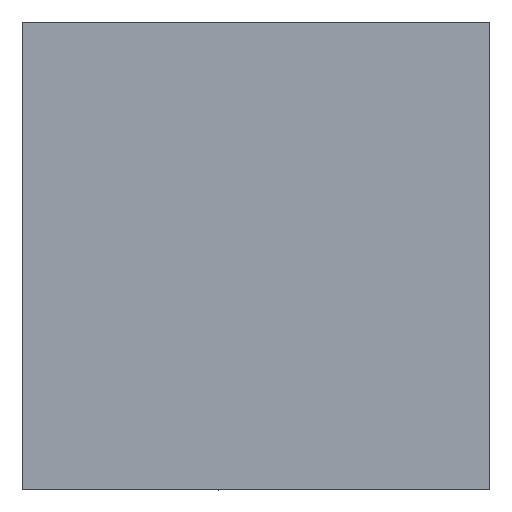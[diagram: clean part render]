
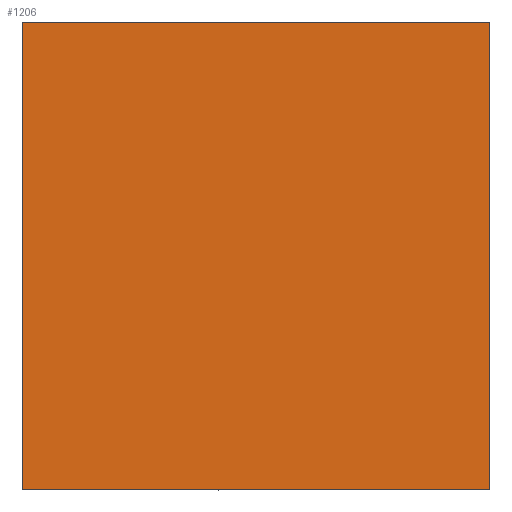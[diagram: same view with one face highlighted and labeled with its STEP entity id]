
A CAD part, front view. The second image highlights one B-rep face of the part: STEP entity #1206.
In plain terms, the highlighted planar face has unit normal (0, -1, 0).
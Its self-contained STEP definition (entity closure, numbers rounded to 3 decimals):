
#389=CARTESIAN_POINT('Vertex',(40.,0.,40.)) ;
#408=CARTESIAN_POINT('Vertex',(-40.,0.,40.)) ;
#411=CARTESIAN_POINT('Line Origine',(0.,0.,40.)) ;
#453=CARTESIAN_POINT('Vertex',(40.,0.,-40.)) ;
#461=CARTESIAN_POINT('Line Origine',(40.,0.,0.)) ;
#830=CARTESIAN_POINT('Vertex',(-40.,0.,-40.)) ;
#838=CARTESIAN_POINT('Line Origine',(0.,0.,-40.)) ;
#1034=CARTESIAN_POINT('Line Origine',(-40.,0.,0.)) ;
#1195=CARTESIAN_POINT('Axis2P3D Location',(0.,0.,-0.)) ;
#412=DIRECTION('Vector Direction',(1.,0.,0.)) ;
#462=DIRECTION('Vector Direction',(0.,0.,-1.)) ;
#839=DIRECTION('Vector Direction',(-1.,0.,0.)) ;
#1035=DIRECTION('Vector Direction',(0.,0.,1.)) ;
#1196=DIRECTION('Axis2P3D Direction',(0.,1.,-0.)) ;
#1197=DIRECTION('Axis2P3D XDirection',(0.,0.,1.)) ;
#1198=AXIS2_PLACEMENT_3D('Plane Axis2P3D',#1195,#1196,#1197) ;
#1201=ORIENTED_EDGE('',*,*,#842,.F.) ;
#1202=ORIENTED_EDGE('',*,*,#465,.F.) ;
#1203=ORIENTED_EDGE('',*,*,#415,.F.) ;
#1204=ORIENTED_EDGE('',*,*,#1038,.F.) ;
#413=VECTOR('Line Direction',#412,1.) ;
#463=VECTOR('Line Direction',#462,1.) ;
#840=VECTOR('Line Direction',#839,1.) ;
#1036=VECTOR('Line Direction',#1035,1.) ;
#1206=ADVANCED_FACE('395V-04-080-200',(#1205),#1199,.F.) ;
#415=EDGE_CURVE('',#409,#390,#414,.T.) ;
#465=EDGE_CURVE('',#390,#454,#464,.T.) ;
#842=EDGE_CURVE('',#454,#831,#841,.T.) ;
#1038=EDGE_CURVE('',#831,#409,#1037,.T.) ;
#1200=EDGE_LOOP('',(#1201,#1202,#1203,#1204)) ;
#1205=FACE_OUTER_BOUND('',#1200,.T.) ;
#414=LINE('Line',#411,#413) ;
#464=LINE('Line',#461,#463) ;
#841=LINE('Line',#838,#840) ;
#1037=LINE('Line',#1034,#1036) ;
#1199=PLANE('Plane',#1198) ;
#390=VERTEX_POINT('',#389) ;
#409=VERTEX_POINT('',#408) ;
#454=VERTEX_POINT('',#453) ;
#831=VERTEX_POINT('',#830) ;
